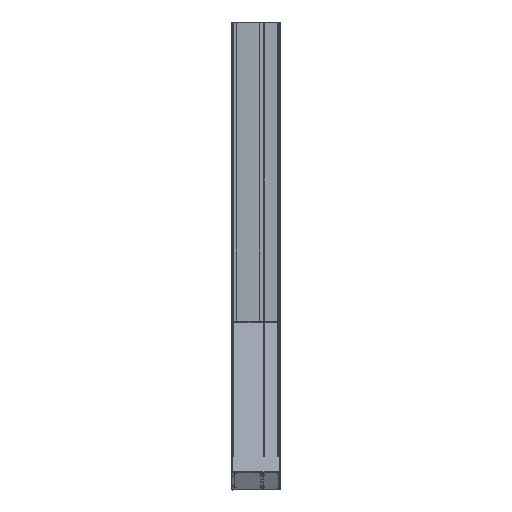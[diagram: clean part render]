
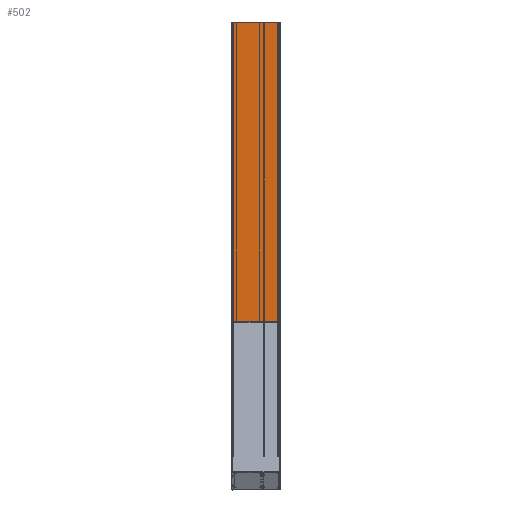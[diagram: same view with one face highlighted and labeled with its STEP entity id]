
A CAD part, left-side view. The second image highlights one B-rep face of the part: STEP entity #502.
In plain terms, the highlighted planar face has unit normal (-1, 0, 0).
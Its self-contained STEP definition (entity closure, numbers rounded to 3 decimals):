
#502=ADVANCED_FACE('',(#1557),#1559,.T.);
#1557=FACE_BOUND('',#1558,.T.);
#1558=EDGE_LOOP('',(#4867,#4868,#4869,#4870));
#1559=PLANE('',#1560);
#1560=AXIS2_PLACEMENT_3D('',#1561,#1562,#1563);
#1561=CARTESIAN_POINT('',(-17.5,4.,-253.5));
#1562=DIRECTION('',(-1.,0.,0.));
#1563=DIRECTION('',(0.,-1.,0.));
#4867=ORIENTED_EDGE('',*,*,#6710,.T.);
#4868=ORIENTED_EDGE('',*,*,#7059,.T.);
#4869=ORIENTED_EDGE('',*,*,#6920,.F.);
#4870=ORIENTED_EDGE('',*,*,#7060,.F.);
#6710=EDGE_CURVE('',#7986,#7984,#7987,.F.);
#6920=EDGE_CURVE('',#8399,#8401,#8402,.T.);
#7059=EDGE_CURVE('',#7984,#8401,#8610,.T.);
#7060=EDGE_CURVE('',#7986,#8399,#8611,.T.);
#7984=VERTEX_POINT('',#10182);
#7986=VERTEX_POINT('',#10187);
#7987=LINE('',#10188,#10189);
#8399=VERTEX_POINT('',#11137);
#8401=VERTEX_POINT('',#11142);
#8402=LINE('',#11143,#11144);
#8610=LINE('',#11672,#11673);
#8611=LINE('',#11675,#11676);
#10182=CARTESIAN_POINT('',(-17.5,-73.75,-243.396));
#10187=CARTESIAN_POINT('',(-17.5,4.,-243.396));
#10188=CARTESIAN_POINT('',(-17.5,-73.75,-243.396));
#10189=VECTOR('',#10190,1.);
#10190=DIRECTION('',(0.,1.,0.));
#11137=CARTESIAN_POINT('',(-17.5,4.,253.5));
#11142=CARTESIAN_POINT('',(-17.5,-73.75,253.5));
#11143=CARTESIAN_POINT('',(-17.5,4.,253.5));
#11144=VECTOR('',#11145,1.);
#11145=DIRECTION('',(0.,-1.,0.));
#11672=CARTESIAN_POINT('',(-17.5,-73.75,-243.396));
#11673=VECTOR('',#11674,1.);
#11674=DIRECTION('',(0.,0.,1.));
#11675=CARTESIAN_POINT('',(-17.5,4.,-243.396));
#11676=VECTOR('',#11677,1.);
#11677=DIRECTION('',(0.,0.,1.));
